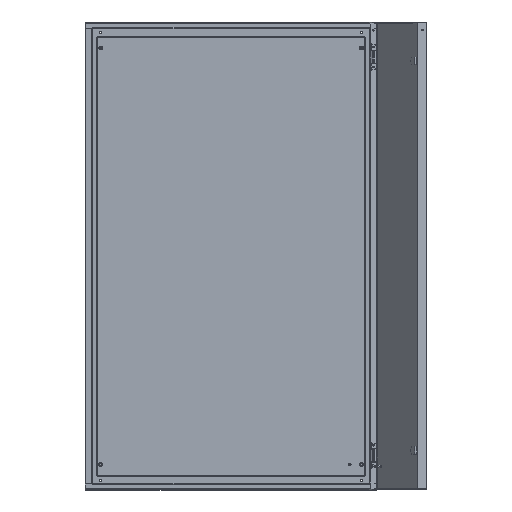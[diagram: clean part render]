
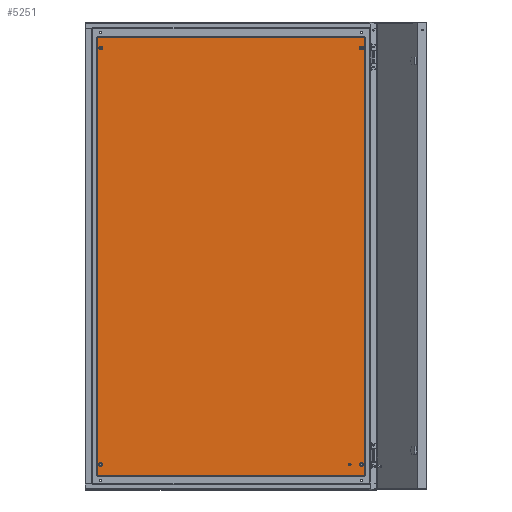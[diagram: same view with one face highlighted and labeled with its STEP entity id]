
A CAD part, top view. The second image highlights one B-rep face of the part: STEP entity #5251.
In plain terms, the highlighted planar face has unit normal (0, 0, 1).
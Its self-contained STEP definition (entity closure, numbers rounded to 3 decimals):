
#29 = AXIS2_PLACEMENT_3D ( 'NONE', #4736, #13125, #10147 ) ;
#53 = DIRECTION ( 'NONE',  ( -1., 0., 0. ) ) ;
#132 = CARTESIAN_POINT ( 'NONE',  ( 684., 30., 0. ) ) ;
#337 = DIRECTION ( 'NONE',  ( 0., 0., 1. ) ) ;
#428 = DIRECTION ( 'NONE',  ( -1., 0., 0. ) ) ;
#543 = AXIS2_PLACEMENT_3D ( 'NONE', #944, #9437, #53 ) ;
#615 = CIRCLE ( 'NONE', #4722, 4. ) ;
#647 = CARTESIAN_POINT ( 'NONE',  ( 10., 1100., 0. ) ) ;
#696 = CARTESIAN_POINT ( 'NONE',  ( 14., 30., 0. ) ) ;
#701 = DIRECTION ( 'NONE',  ( -1., 0., 0. ) ) ;
#744 = EDGE_LOOP ( 'NONE', ( #9695, #2258, #9690, #8341 ) ) ;
#920 = AXIS2_PLACEMENT_3D ( 'NONE', #8279, #11530, #5126 ) ;
#944 = CARTESIAN_POINT ( 'NONE',  ( 10., 30., 0. ) ) ;
#1078 = VERTEX_POINT ( 'NONE', #7286 ) ;
#1148 = VERTEX_POINT ( 'NONE', #7379 ) ;
#1538 = CARTESIAN_POINT ( 'NONE',  ( 680., 1100., 0. ) ) ;
#1784 = AXIS2_PLACEMENT_3D ( 'NONE', #2960, #9208, #701 ) ;
#1896 = EDGE_LOOP ( 'NONE', ( #10778, #10068 ) ) ;
#2258 = ORIENTED_EDGE ( 'NONE', *, *, #7916, .T. ) ;
#2264 = VERTEX_POINT ( 'NONE', #3266 ) ;
#2284 = ORIENTED_EDGE ( 'NONE', *, *, #11697, .F. ) ;
#2356 = CIRCLE ( 'NONE', #3600, 4. ) ;
#2427 = CARTESIAN_POINT ( 'NONE',  ( 680., 30., 0. ) ) ;
#2652 = AXIS2_PLACEMENT_3D ( 'NONE', #12081, #8753, #10877 ) ;
#2664 = ORIENTED_EDGE ( 'NONE', *, *, #8181, .F. ) ;
#2876 = ORIENTED_EDGE ( 'NONE', *, *, #5031, .F. ) ;
#2916 = VERTEX_POINT ( 'NONE', #9320 ) ;
#2960 = CARTESIAN_POINT ( 'NONE',  ( 650., 30., 0. ) ) ;
#3169 = CARTESIAN_POINT ( 'NONE',  ( 1.907, 1.937, 0. ) ) ;
#3266 = CARTESIAN_POINT ( 'NONE',  ( 6., 30., 0. ) ) ;
#3285 = EDGE_CURVE ( 'NONE', #6644, #12345, #7129, .T. ) ;
#3470 = DIRECTION ( 'NONE',  ( 1., 0., 0. ) ) ;
#3600 = AXIS2_PLACEMENT_3D ( 'NONE', #6909, #12388, #12205 ) ;
#3782 = VECTOR ( 'NONE', #12921, 1000. ) ;
#3889 = DIRECTION ( 'NONE',  ( 0., 0., 1. ) ) ;
#3935 = FACE_BOUND ( 'NONE', #9997, .T. ) ;
#4085 = EDGE_CURVE ( 'NONE', #12730, #8492, #13256, .T. ) ;
#4170 = CARTESIAN_POINT ( 'NONE',  ( 676., 1100., 0. ) ) ;
#4280 = CARTESIAN_POINT ( 'NONE',  ( 1.937, 1.937, 0. ) ) ;
#4282 = CIRCLE ( 'NONE', #10817, 4. ) ;
#4458 = LINE ( 'NONE', #12422, #13375 ) ;
#4722 = AXIS2_PLACEMENT_3D ( 'NONE', #8133, #3889, #4963 ) ;
#4736 = CARTESIAN_POINT ( 'NONE',  ( 10., 30., 0. ) ) ;
#4785 = DIRECTION ( 'NONE',  ( 0., 0., 1. ) ) ;
#4868 = ORIENTED_EDGE ( 'NONE', *, *, #5566, .F. ) ;
#4910 = CARTESIAN_POINT ( 'NONE',  ( 680., 1100., 0. ) ) ;
#4963 = DIRECTION ( 'NONE',  ( 1., 0., 0. ) ) ;
#5031 = EDGE_CURVE ( 'NONE', #10078, #13698, #10233, .T. ) ;
#5122 = VERTEX_POINT ( 'NONE', #696 ) ;
#5126 = DIRECTION ( 'NONE',  ( -1., 0., 0. ) ) ;
#5251 = ADVANCED_FACE ( 'NONE', ( #6904, #7085, #12559, #3935, #5267, #12222 ), #13504, .F. ) ;
#5267 = FACE_BOUND ( 'NONE', #11019, .T. ) ;
#5279 = LINE ( 'NONE', #5499, #3782 ) ;
#5294 = DIRECTION ( 'NONE',  ( 1., 0., 0. ) ) ;
#5499 = CARTESIAN_POINT ( 'NONE',  ( 688.093, 1128.063, 0. ) ) ;
#5540 = CARTESIAN_POINT ( 'NONE',  ( 676., 30., 0. ) ) ;
#5566 = EDGE_CURVE ( 'NONE', #2264, #5122, #10567, .T. ) ;
#5627 = AXIS2_PLACEMENT_3D ( 'NONE', #1538, #337, #428 ) ;
#5682 = DIRECTION ( 'NONE',  ( 0., 0., 1. ) ) ;
#5849 = DIRECTION ( 'NONE',  ( 0., 1., 0. ) ) ;
#5895 = VECTOR ( 'NONE', #5294, 1000. ) ;
#6181 = CARTESIAN_POINT ( 'NONE',  ( 14., 1100., 0. ) ) ;
#6607 = VECTOR ( 'NONE', #5849, 1000. ) ;
#6644 = VERTEX_POINT ( 'NONE', #13137 ) ;
#6690 = CARTESIAN_POINT ( 'NONE',  ( 684., 1100., 0. ) ) ;
#6711 = ORIENTED_EDGE ( 'NONE', *, *, #4085, .F. ) ;
#6904 = FACE_BOUND ( 'NONE', #1896, .T. ) ;
#6909 = CARTESIAN_POINT ( 'NONE',  ( 680., 30., 0. ) ) ;
#7036 = CARTESIAN_POINT ( 'NONE',  ( 647., 30., 0. ) ) ;
#7085 = FACE_BOUND ( 'NONE', #10666, .T. ) ;
#7129 = CIRCLE ( 'NONE', #2652, 3. ) ;
#7286 = CARTESIAN_POINT ( 'NONE',  ( 688.063, 1.937, 0. ) ) ;
#7379 = CARTESIAN_POINT ( 'NONE',  ( 688.063, 1128.063, 0. ) ) ;
#7406 = EDGE_CURVE ( 'NONE', #2916, #8906, #4458, .T. ) ;
#7916 = EDGE_CURVE ( 'NONE', #8906, #1078, #13697, .T. ) ;
#8133 = CARTESIAN_POINT ( 'NONE',  ( 10., 1100., 0. ) ) ;
#8181 = EDGE_CURVE ( 'NONE', #13698, #10078, #615, .T. ) ;
#8190 = DIRECTION ( 'NONE',  ( 0., 0., 1. ) ) ;
#8279 = CARTESIAN_POINT ( 'NONE',  ( 0., 0., 0. ) ) ;
#8341 = ORIENTED_EDGE ( 'NONE', *, *, #12815, .T. ) ;
#8466 = CIRCLE ( 'NONE', #1784, 3. ) ;
#8492 = VERTEX_POINT ( 'NONE', #4170 ) ;
#8493 = CIRCLE ( 'NONE', #5627, 4. ) ;
#8504 = CIRCLE ( 'NONE', #543, 4. ) ;
#8753 = DIRECTION ( 'NONE',  ( 0., 0., 1. ) ) ;
#8906 = VERTEX_POINT ( 'NONE', #4280 ) ;
#9126 = DIRECTION ( 'NONE',  ( -1., 0., 0. ) ) ;
#9208 = DIRECTION ( 'NONE',  ( 0., 0., 1. ) ) ;
#9249 = DIRECTION ( 'NONE',  ( 1., 0., 0. ) ) ;
#9320 = CARTESIAN_POINT ( 'NONE',  ( 1.937, 1128.063, 0. ) ) ;
#9405 = CARTESIAN_POINT ( 'NONE',  ( 6., 1100., 0. ) ) ;
#9437 = DIRECTION ( 'NONE',  ( 0., 0., 1. ) ) ;
#9690 = ORIENTED_EDGE ( 'NONE', *, *, #11398, .T. ) ;
#9695 = ORIENTED_EDGE ( 'NONE', *, *, #7406, .T. ) ;
#9789 = CARTESIAN_POINT ( 'NONE',  ( 688.063, 1.907, 0. ) ) ;
#9948 = LINE ( 'NONE', #9789, #6607 ) ;
#9997 = EDGE_LOOP ( 'NONE', ( #6711, #12709 ) ) ;
#10068 = ORIENTED_EDGE ( 'NONE', *, *, #3285, .F. ) ;
#10078 = VERTEX_POINT ( 'NONE', #6181 ) ;
#10147 = DIRECTION ( 'NONE',  ( -1., 0., 0. ) ) ;
#10188 = ORIENTED_EDGE ( 'NONE', *, *, #12758, .F. ) ;
#10233 = CIRCLE ( 'NONE', #12156, 4. ) ;
#10269 = VERTEX_POINT ( 'NONE', #5540 ) ;
#10332 = EDGE_CURVE ( 'NONE', #8492, #12730, #8493, .T. ) ;
#10341 = DIRECTION ( 'NONE',  ( 0., -1., 0. ) ) ;
#10442 = AXIS2_PLACEMENT_3D ( 'NONE', #4910, #4785, #9126 ) ;
#10567 = CIRCLE ( 'NONE', #29, 4. ) ;
#10666 = EDGE_LOOP ( 'NONE', ( #11244, #4868 ) ) ;
#10778 = ORIENTED_EDGE ( 'NONE', *, *, #12958, .F. ) ;
#10817 = AXIS2_PLACEMENT_3D ( 'NONE', #2427, #5682, #3470 ) ;
#10877 = DIRECTION ( 'NONE',  ( -1., 0., 0. ) ) ;
#11019 = EDGE_LOOP ( 'NONE', ( #2876, #2664 ) ) ;
#11244 = ORIENTED_EDGE ( 'NONE', *, *, #13143, .F. ) ;
#11398 = EDGE_CURVE ( 'NONE', #1078, #1148, #9948, .T. ) ;
#11530 = DIRECTION ( 'NONE',  ( 0., 0., -1. ) ) ;
#11697 = EDGE_CURVE ( 'NONE', #12006, #10269, #2356, .T. ) ;
#11885 = EDGE_LOOP ( 'NONE', ( #2284, #10188 ) ) ;
#12006 = VERTEX_POINT ( 'NONE', #132 ) ;
#12081 = CARTESIAN_POINT ( 'NONE',  ( 650., 30., 0. ) ) ;
#12156 = AXIS2_PLACEMENT_3D ( 'NONE', #647, #8190, #9249 ) ;
#12205 = DIRECTION ( 'NONE',  ( 1., 0., 0. ) ) ;
#12222 = FACE_OUTER_BOUND ( 'NONE', #744, .T. ) ;
#12345 = VERTEX_POINT ( 'NONE', #7036 ) ;
#12388 = DIRECTION ( 'NONE',  ( 0., 0., 1. ) ) ;
#12422 = CARTESIAN_POINT ( 'NONE',  ( 1.937, 1128.093, 0. ) ) ;
#12559 = FACE_BOUND ( 'NONE', #11885, .T. ) ;
#12709 = ORIENTED_EDGE ( 'NONE', *, *, #10332, .F. ) ;
#12730 = VERTEX_POINT ( 'NONE', #6690 ) ;
#12758 = EDGE_CURVE ( 'NONE', #10269, #12006, #4282, .T. ) ;
#12815 = EDGE_CURVE ( 'NONE', #1148, #2916, #5279, .T. ) ;
#12921 = DIRECTION ( 'NONE',  ( -1., 0., 0. ) ) ;
#12958 = EDGE_CURVE ( 'NONE', #12345, #6644, #8466, .T. ) ;
#13125 = DIRECTION ( 'NONE',  ( 0., 0., 1. ) ) ;
#13137 = CARTESIAN_POINT ( 'NONE',  ( 653., 30., 0. ) ) ;
#13143 = EDGE_CURVE ( 'NONE', #5122, #2264, #8504, .T. ) ;
#13256 = CIRCLE ( 'NONE', #10442, 4. ) ;
#13375 = VECTOR ( 'NONE', #10341, 1000. ) ;
#13504 = PLANE ( 'NONE',  #920 ) ;
#13697 = LINE ( 'NONE', #3169, #5895 ) ;
#13698 = VERTEX_POINT ( 'NONE', #9405 ) ;
